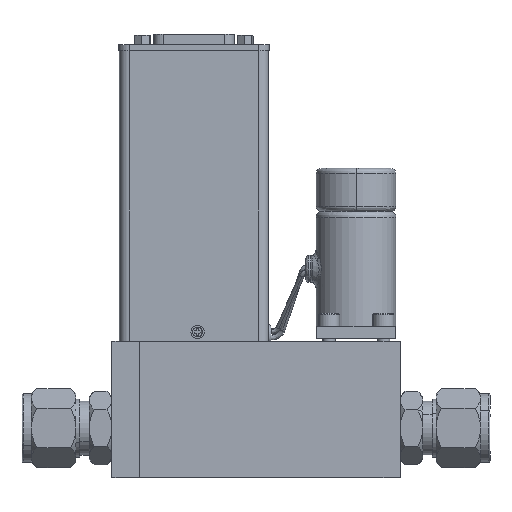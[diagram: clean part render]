
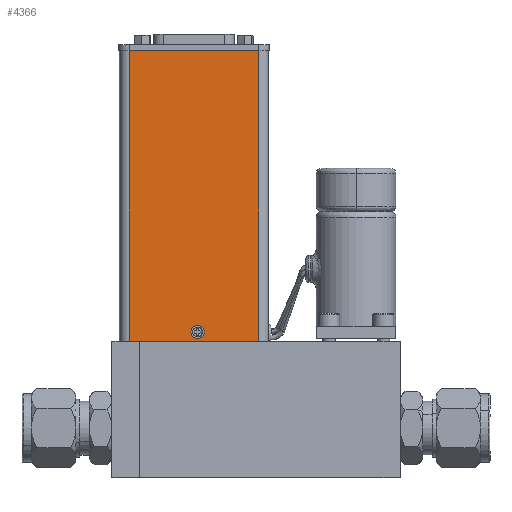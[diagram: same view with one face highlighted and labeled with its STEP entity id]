
A CAD part, top view. The second image highlights one B-rep face of the part: STEP entity #4366.
In plain terms, the highlighted planar face has unit normal (0, 0, 1).
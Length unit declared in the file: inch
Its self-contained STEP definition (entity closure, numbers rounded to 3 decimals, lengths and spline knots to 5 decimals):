
#1175 = EDGE_CURVE ( 'NONE', #27067, #5200, #16195, .T. ) ;
#2125 = FACE_BOUND ( 'NONE', #8600, .T. ) ;
#3215 = CARTESIAN_POINT ( 'NONE',  ( 1.03036, 1.48511, -0.008 ) ) ;
#4366 = ADVANCED_FACE ( 'NONE', ( #27298, #2125 ), #34187, .T. ) ;
#5200 = VERTEX_POINT ( 'NONE', #23382 ) ;
#5905 = ORIENTED_EDGE ( 'NONE', *, *, #34753, .T. ) ;
#6545 = VECTOR ( 'NONE', #13564, 39.37008 ) ;
#6777 = LINE ( 'NONE', #21248, #29495 ) ;
#7231 = EDGE_CURVE ( 'NONE', #29052, #42549, #38290, .T. ) ;
#7593 = CARTESIAN_POINT ( 'NONE',  ( 1.03036, 5.19964, -0.008 ) ) ;
#8064 = DIRECTION ( 'NONE',  ( -1., 0., 0. ) ) ;
#8600 = EDGE_LOOP ( 'NONE', ( #15175, #34691 ) ) ;
#9227 = DIRECTION ( 'NONE',  ( 0., -1., 0. ) ) ;
#9783 = CIRCLE ( 'NONE', #12105, 0.06299 ) ;
#9880 = ORIENTED_EDGE ( 'NONE', *, *, #38985, .T. ) ;
#12105 = AXIS2_PLACEMENT_3D ( 'NONE', #24862, #27482, #42941 ) ;
#12242 = VECTOR ( 'NONE', #40015, 39.37008 ) ;
#13564 = DIRECTION ( 'NONE',  ( 0., -1., 0. ) ) ;
#13570 = EDGE_LOOP ( 'NONE', ( #37375, #19295, #9880, #5905 ) ) ;
#15175 = ORIENTED_EDGE ( 'NONE', *, *, #7231, .T. ) ;
#16195 = LINE ( 'NONE', #27144, #6545 ) ;
#16912 = CARTESIAN_POINT ( 'NONE',  ( 1.85836, 5.19964, -0.008 ) ) ;
#19295 = ORIENTED_EDGE ( 'NONE', *, *, #1175, .T. ) ;
#20652 = CARTESIAN_POINT ( 'NONE',  ( 1.85836, 1.48511, -0.008 ) ) ;
#21248 = CARTESIAN_POINT ( 'NONE',  ( 1.85836, 1.48511, -0.008 ) ) ;
#22351 = AXIS2_PLACEMENT_3D ( 'NONE', #35168, #30932, #31150 ) ;
#23382 = CARTESIAN_POINT ( 'NONE',  ( 0.20236, 1.48511, -0.008 ) ) ;
#23502 = VERTEX_POINT ( 'NONE', #20652 ) ;
#24862 = CARTESIAN_POINT ( 'NONE',  ( 1.07761, 1.60311, -0.008 ) ) ;
#25636 = EDGE_CURVE ( 'NONE', #42549, #29052, #9783, .T. ) ;
#26456 = EDGE_CURVE ( 'NONE', #35085, #27067, #40589, .T. ) ;
#26726 = CARTESIAN_POINT ( 'NONE',  ( 1.07761, 1.6661, -0.008 ) ) ;
#27067 = VERTEX_POINT ( 'NONE', #44107 ) ;
#27144 = CARTESIAN_POINT ( 'NONE',  ( 0.20236, 1.48511, -0.008 ) ) ;
#27298 = FACE_OUTER_BOUND ( 'NONE', #13570, .T. ) ;
#27482 = DIRECTION ( 'NONE',  ( 0., 0., -1. ) ) ;
#29052 = VERTEX_POINT ( 'NONE', #26726 ) ;
#29495 = VECTOR ( 'NONE', #31728, 39.37008 ) ;
#30932 = DIRECTION ( 'NONE',  ( 0., 0., -1. ) ) ;
#31095 = DIRECTION ( 'NONE',  ( 0., 0., 1. ) ) ;
#31131 = VECTOR ( 'NONE', #8064, 39.37008 ) ;
#31150 = DIRECTION ( 'NONE',  ( 0., 1., 0. ) ) ;
#31728 = DIRECTION ( 'NONE',  ( 0., 1., 0. ) ) ;
#34187 = PLANE ( 'NONE',  #34805 ) ;
#34691 = ORIENTED_EDGE ( 'NONE', *, *, #25636, .T. ) ;
#34753 = EDGE_CURVE ( 'NONE', #23502, #35085, #6777, .T. ) ;
#34805 = AXIS2_PLACEMENT_3D ( 'NONE', #42252, #31095, #9227 ) ;
#35085 = VERTEX_POINT ( 'NONE', #16912 ) ;
#35168 = CARTESIAN_POINT ( 'NONE',  ( 1.07761, 1.60311, -0.008 ) ) ;
#37375 = ORIENTED_EDGE ( 'NONE', *, *, #26456, .T. ) ;
#38290 = CIRCLE ( 'NONE', #22351, 0.06299 ) ;
#38985 = EDGE_CURVE ( 'NONE', #5200, #23502, #46905, .T. ) ;
#40015 = DIRECTION ( 'NONE',  ( 1., 0., 0. ) ) ;
#40589 = LINE ( 'NONE', #7593, #31131 ) ;
#41553 = CARTESIAN_POINT ( 'NONE',  ( 1.07761, 1.54012, -0.008 ) ) ;
#42252 = CARTESIAN_POINT ( 'NONE',  ( 1.03036, 1.48511, -0.008 ) ) ;
#42549 = VERTEX_POINT ( 'NONE', #41553 ) ;
#42941 = DIRECTION ( 'NONE',  ( 0., 1., 0. ) ) ;
#44107 = CARTESIAN_POINT ( 'NONE',  ( 0.20236, 5.19964, -0.008 ) ) ;
#46905 = LINE ( 'NONE', #3215, #12242 ) ;
